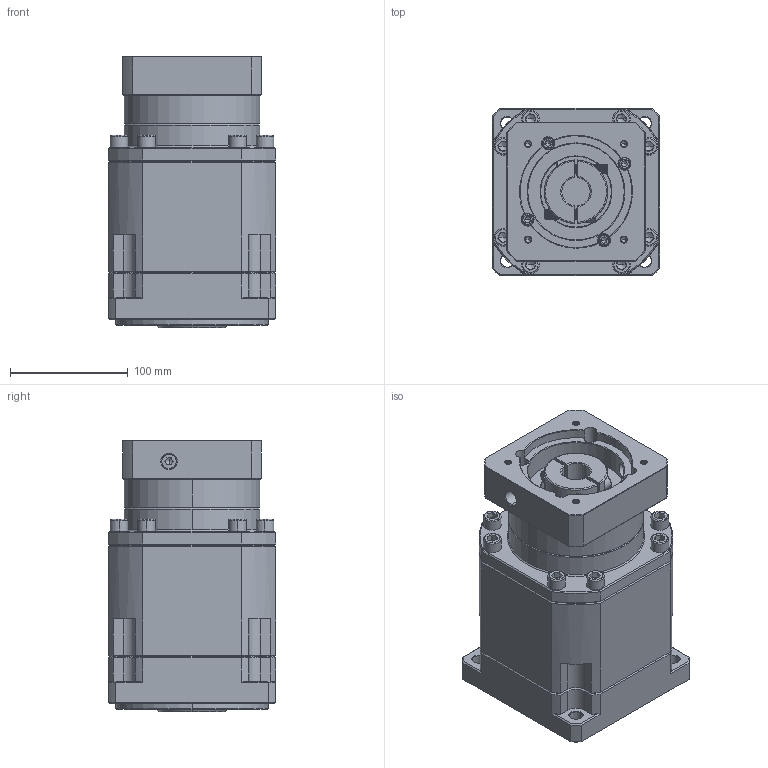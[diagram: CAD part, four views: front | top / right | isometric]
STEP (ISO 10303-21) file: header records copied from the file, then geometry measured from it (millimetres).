
FILE_DESCRIPTION (( 'STEP AP214' ), '1' );
FILE_NAME ('ZB142A-K35-L3-P2-24-95-115-M6.step', '2023-09-02T02:56:26', ( '' ), ( '' ), 'SwSTEP 2.0', 'SolidWorks 2016', '' );
FILE_SCHEMA (( 'AUTOMOTIVE_DESIGN' ));
Length unit declared in the file: millimetre
Products named in the file (1): ZB142A-K35-L3-P2-24-95-115-M6
Bounding box: 142 x 142 x 230.7 mm (x, y, z)
Volume: 3451952.4 mm3; surface area: 245253.2 mm2
Topology: 6 solids, 6 shells, 2500 faces, 6563 edges, 4184 vertices
Faces by surface type: plane 1198, cylinder 452, bspline 418, cone 396, torus 36
Entity records: 129149 total; most frequent: CARTESIAN_POINT 43124, ORIENTED_EDGE 13022, DIRECTION 10712, EDGE_CURVE 6511, VERTEX_POINT 4184, VECTOR 4156, LINE 4156, AXIS2_PLACEMENT_3D 3278
